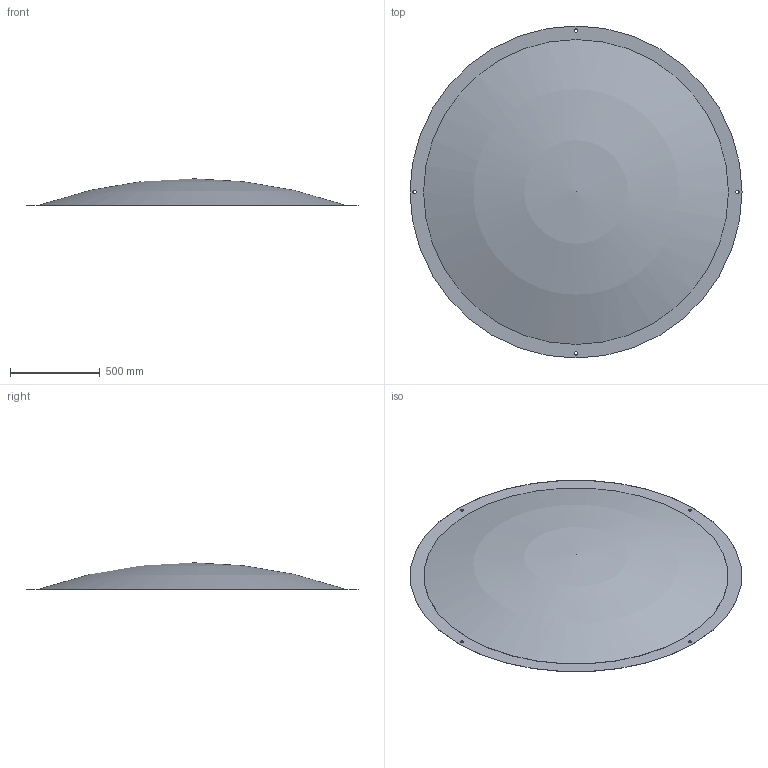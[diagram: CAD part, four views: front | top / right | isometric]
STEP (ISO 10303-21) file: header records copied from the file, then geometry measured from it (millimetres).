
FILE_DESCRIPTION( ( 'Unknown' ), '1' );
FILE_NAME( 'C:/Users/Lee/Documents/HGC Work/Solid Edge/heavy_gas_cherenkov_v5/step/window.stp', 'Unknown', ( 'Unknown' ), ( 'Unknown' ), 'PSStep 13.0', 'Unknown', ' ' );
FILE_SCHEMA( ( 'AUTOMOTIVE_DESIGN { 1 0 10303 214 1 1 1 1 }' ) );
Length unit declared in the file: millimetre
Products named in the file (1): 1
Bounding box: 1852.4 x 1852.4 x 147.92 mm (x, y, z)
Volume: 2805844.9 mm3; surface area: 5529472.5 mm2
Topology: 1 solids, 1 shells, 9 faces, 23 edges, 16 vertices
Faces by surface type: cylinder 5, plane 2, sphere 2
Full cylindrical faces by diameter (mm): 19.05 x4, 1852.4 x1
Entity records: 318 total; most frequent: DIRECTION 44, CARTESIAN_POINT 34, EDGE_LOOP 24, ORIENTED_EDGE 24, AXIS2_PLACEMENT_3D 22, FACE_OUTER_BOUND 14, EDGE_CURVE 12, VERTEX_POINT 12
